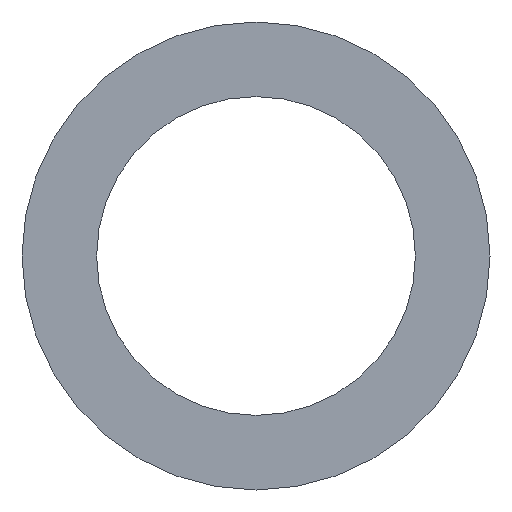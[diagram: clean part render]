
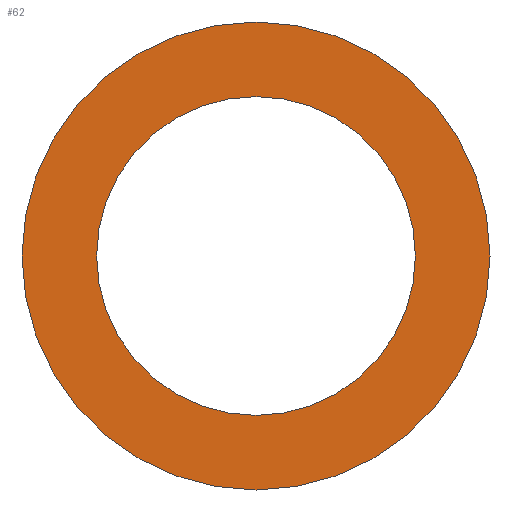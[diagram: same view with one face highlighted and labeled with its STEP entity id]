
A CAD part, front view. The second image highlights one B-rep face of the part: STEP entity #62.
In plain terms, the highlighted planar face has unit normal (0, -1, 0).
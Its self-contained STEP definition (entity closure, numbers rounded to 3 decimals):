
#20=PLANE('',#83);
#26=ORIENTED_EDGE('',*,*,#30,.T.);
#27=ORIENTED_EDGE('',*,*,#32,.F.);
#30=EDGE_CURVE('',#34,#34,#38,.T.);
#32=EDGE_CURVE('',#36,#36,#40,.T.);
#34=VERTEX_POINT('',#106);
#36=VERTEX_POINT('',#111);
#38=CIRCLE('',#78,93.);
#40=CIRCLE('',#81,136.5);
#46=EDGE_LOOP('',(#26));
#47=EDGE_LOOP('',(#27));
#54=FACE_BOUND('',#46,.T.);
#55=FACE_BOUND('',#47,.T.);
#62=ADVANCED_FACE('',(#54,#55),#20,.F.);
#78=AXIS2_PLACEMENT_3D('',#105,#89,#90);
#81=AXIS2_PLACEMENT_3D('',#110,#95,#96);
#83=AXIS2_PLACEMENT_3D('',#114,#99,#100);
#89=DIRECTION('',(0.,1.,0.));
#90=DIRECTION('',(1.,0.,0.));
#95=DIRECTION('',(0.,1.,0.));
#96=DIRECTION('',(1.,0.,0.));
#99=DIRECTION('',(0.,1.,0.));
#100=DIRECTION('',(0.,0.,1.));
#105=CARTESIAN_POINT('',(0.,-1.5,0.));
#106=CARTESIAN_POINT('',(93.,-1.5,0.));
#110=CARTESIAN_POINT('',(0.,-1.5,0.));
#111=CARTESIAN_POINT('',(136.5,-1.5,0.));
#114=CARTESIAN_POINT('',(0.,-1.5,0.));
